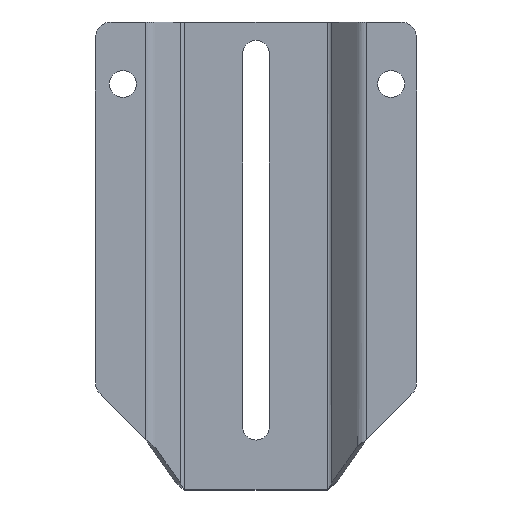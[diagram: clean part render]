
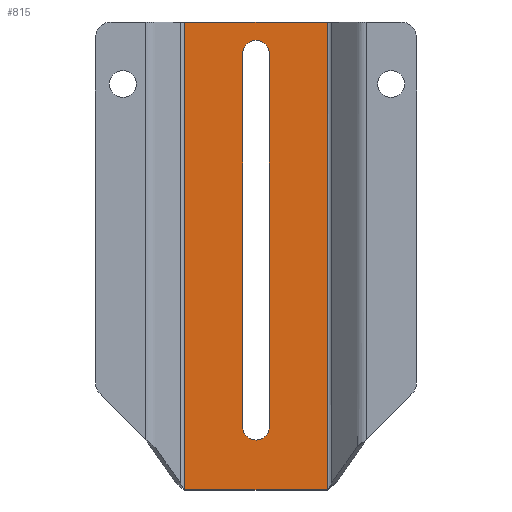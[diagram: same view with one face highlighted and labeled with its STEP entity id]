
A CAD part, top view. The second image highlights one B-rep face of the part: STEP entity #815.
In plain terms, the highlighted planar face has unit normal (0, 0, 1).
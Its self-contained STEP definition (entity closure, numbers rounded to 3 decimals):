
#35=FACE_BOUND('',#164,.T.);
#63=PLANE('',#919);
#111=FACE_OUTER_BOUND('',#163,.T.);
#163=EDGE_LOOP('',(#737,#738,#739,#740));
#164=EDGE_LOOP('',(#741,#742,#743,#744));
#189=LINE('',#1218,#269);
#192=LINE('',#1227,#272);
#219=LINE('',#1387,#299);
#222=LINE('',#1396,#302);
#243=LINE('',#1449,#323);
#245=LINE('',#1452,#325);
#269=VECTOR('',#992,10.);
#272=VECTOR('',#1003,10.);
#299=VECTOR('',#1052,10.);
#302=VECTOR('',#1063,10.);
#323=VECTOR('',#1132,10.);
#325=VECTOR('',#1136,10.);
#338=CIRCLE('',#873,4.25);
#340=CIRCLE('',#877,4.25);
#375=VERTEX_POINT('',#1208);
#376=VERTEX_POINT('',#1210);
#378=VERTEX_POINT('',#1216);
#380=VERTEX_POINT('',#1222);
#396=VERTEX_POINT('',#1308);
#404=VERTEX_POINT('',#1376);
#406=VERTEX_POINT('',#1385);
#408=VERTEX_POINT('',#1395);
#447=EDGE_CURVE('',#376,#375,#338,.T.);
#451=EDGE_CURVE('',#375,#378,#189,.T.);
#454=EDGE_CURVE('',#378,#380,#340,.T.);
#456=EDGE_CURVE('',#380,#376,#192,.T.);
#494=EDGE_CURVE('',#406,#396,#219,.T.);
#498=EDGE_CURVE('',#404,#408,#222,.T.);
#525=EDGE_CURVE('',#396,#404,#243,.T.);
#527=EDGE_CURVE('',#408,#406,#245,.T.);
#737=ORIENTED_EDGE('',*,*,#494,.F.);
#738=ORIENTED_EDGE('',*,*,#527,.F.);
#739=ORIENTED_EDGE('',*,*,#498,.F.);
#740=ORIENTED_EDGE('',*,*,#525,.F.);
#741=ORIENTED_EDGE('',*,*,#447,.T.);
#742=ORIENTED_EDGE('',*,*,#451,.T.);
#743=ORIENTED_EDGE('',*,*,#454,.T.);
#744=ORIENTED_EDGE('',*,*,#456,.T.);
#815=ADVANCED_FACE('',(#111,#35),#63,.T.);
#873=AXIS2_PLACEMENT_3D('',#1211,#985,#986);
#877=AXIS2_PLACEMENT_3D('',#1224,#998,#999);
#919=AXIS2_PLACEMENT_3D('',#1454,#1138,#1139);
#985=DIRECTION('center_axis',(0.,0.,-1.));
#986=DIRECTION('ref_axis',(1.,0.,0.));
#992=DIRECTION('',(0.,1.,0.));
#998=DIRECTION('center_axis',(0.,0.,-1.));
#999=DIRECTION('ref_axis',(-1.,0.,0.));
#1003=DIRECTION('',(0.,-1.,0.));
#1052=DIRECTION('',(0.,-1.,0.));
#1063=DIRECTION('',(0.,1.,0.));
#1132=DIRECTION('',(-1.,0.,0.));
#1136=DIRECTION('',(1.,0.,0.));
#1138=DIRECTION('center_axis',(0.,0.,1.));
#1139=DIRECTION('ref_axis',(1.,0.,0.));
#1208=CARTESIAN_POINT('',(-4.25,-53.75,2.));
#1210=CARTESIAN_POINT('',(4.25,-53.75,2.));
#1211=CARTESIAN_POINT('Origin',(0.,-53.75,2.));
#1216=CARTESIAN_POINT('',(-4.25,63.75,2.));
#1218=CARTESIAN_POINT('',(-4.25,31.875,2.));
#1222=CARTESIAN_POINT('',(4.25,63.75,2.));
#1224=CARTESIAN_POINT('Origin',(0.,63.75,2.));
#1227=CARTESIAN_POINT('',(4.25,-26.875,2.));
#1308=CARTESIAN_POINT('',(22.5,-73.75,2.));
#1376=CARTESIAN_POINT('',(-22.5,-73.75,2.));
#1385=CARTESIAN_POINT('',(22.5,73.75,2.));
#1387=CARTESIAN_POINT('',(22.5,73.75,2.));
#1395=CARTESIAN_POINT('',(-22.5,73.75,2.));
#1396=CARTESIAN_POINT('',(-22.5,-73.75,2.));
#1449=CARTESIAN_POINT('',(22.5,-73.75,2.));
#1452=CARTESIAN_POINT('',(-22.5,73.75,2.));
#1454=CARTESIAN_POINT('Origin',(0.,0.,2.));
